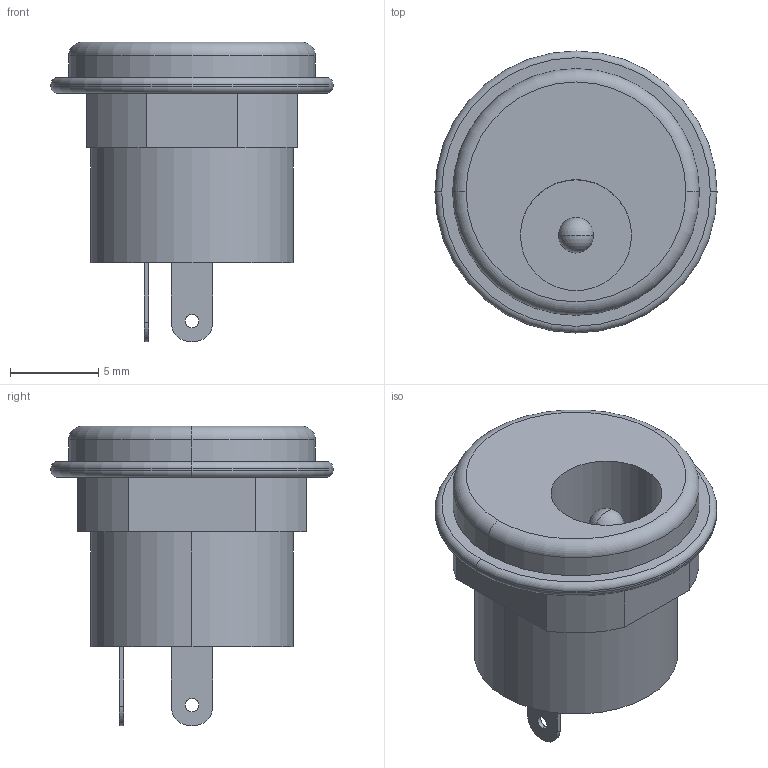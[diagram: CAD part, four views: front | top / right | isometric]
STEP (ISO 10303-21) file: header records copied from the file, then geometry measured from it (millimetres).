
FILE_DESCRIPTION (( 'STEP AP214' ), '1' );
FILE_NAME ('Barrel Jack.STEP', '2018-05-10T20:41:38', ( '' ), ( '' ), 'SwSTEP 2.0', 'SolidWorks 2015', '' );
FILE_SCHEMA (( 'AUTOMOTIVE_DESIGN' ));
Length unit declared in the file: inch
Products named in the file (1): Barrel Jack
Bounding box: 16 x 16 x 16.99 mm (x, y, z)
Volume: 1341.5 mm3; surface area: 1136.5 mm2
Topology: 1 solids, 1 shells, 50 faces, 120 edges, 77 vertices
Faces by surface type: cylinder 22, plane 20, torus 6, sphere 2
Entity records: 1724 total; most frequent: DIRECTION 276, CARTESIAN_POINT 242, ORIENTED_EDGE 232, EDGE_CURVE 116, AXIS2_PLACEMENT_3D 109, VERTEX_POINT 75, EDGE_LOOP 61, LINE 58
